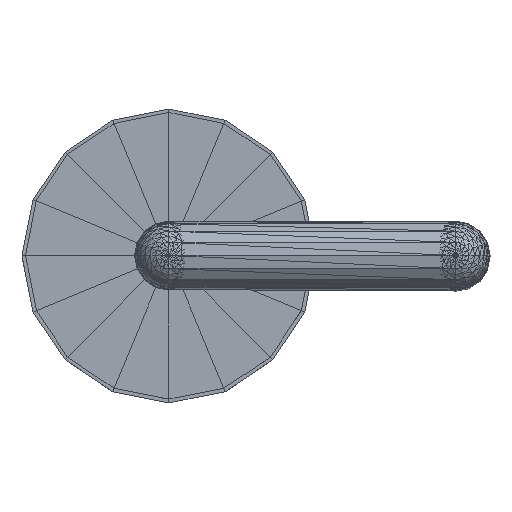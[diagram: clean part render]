
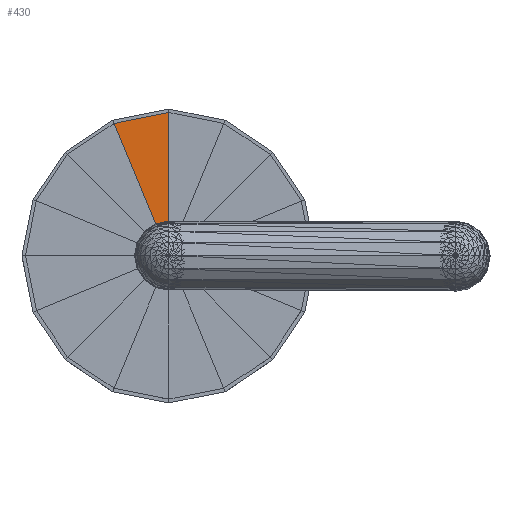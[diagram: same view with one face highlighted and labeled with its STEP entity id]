
A CAD part, top view. The second image highlights one B-rep face of the part: STEP entity #430.
In plain terms, the highlighted planar face has unit normal (0, 0, 1).
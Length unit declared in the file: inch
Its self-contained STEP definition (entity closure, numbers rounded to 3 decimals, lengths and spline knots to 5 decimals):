
#66=CARTESIAN_POINT('',(0.,-0.00004,0.385));
#67=VERTEX_POINT('',#66);
#68=CARTESIAN_POINT('',(0.,0.09996,0.38502));
#69=VERTEX_POINT('',#68);
#70=CARTESIAN_POINT('',(0.,-0.00004,0.385));
#71=DIRECTION('',(0.,1.,0.));
#72=VECTOR('',#71,0.1);
#73=LINE('',#70,#72);
#74=EDGE_CURVE('',#67,#69,#73,.T.);
#398=CARTESIAN_POINT('',(-0.03827,0.09235,0.38502));
#399=VERTEX_POINT('',#398);
#400=CARTESIAN_POINT('',(0.,-0.00004,0.385));
#401=DIRECTION('',(-0.383,0.924,0.));
#402=VECTOR('',#401,0.1);
#403=LINE('',#400,#402);
#404=EDGE_CURVE('',#67,#399,#403,.T.);
#415=CARTESIAN_POINT('',(-0.0339,0.09235,0.38502));
#416=DIRECTION('',(0.,0.,1.));
#417=DIRECTION('',(1.,0.,0.));
#418=AXIS2_PLACEMENT_3D('',#415,#416,#417);
#419=PLANE('',#418);
#420=ORIENTED_EDGE('',*,*,#404,.F.);
#421=ORIENTED_EDGE('',*,*,#74,.T.);
#422=CARTESIAN_POINT('',(-0.03827,0.09235,0.38502));
#423=DIRECTION('',(0.981,0.195,0.));
#424=VECTOR('',#423,0.03902);
#425=LINE('',#422,#424);
#426=EDGE_CURVE('',#399,#69,#425,.T.);
#427=ORIENTED_EDGE('',*,*,#426,.F.);
#428=EDGE_LOOP('',(#420,#421,#427));
#429=FACE_BOUND('',#428,.T.);
#430=ADVANCED_FACE('',(#429),#419,.T.);
